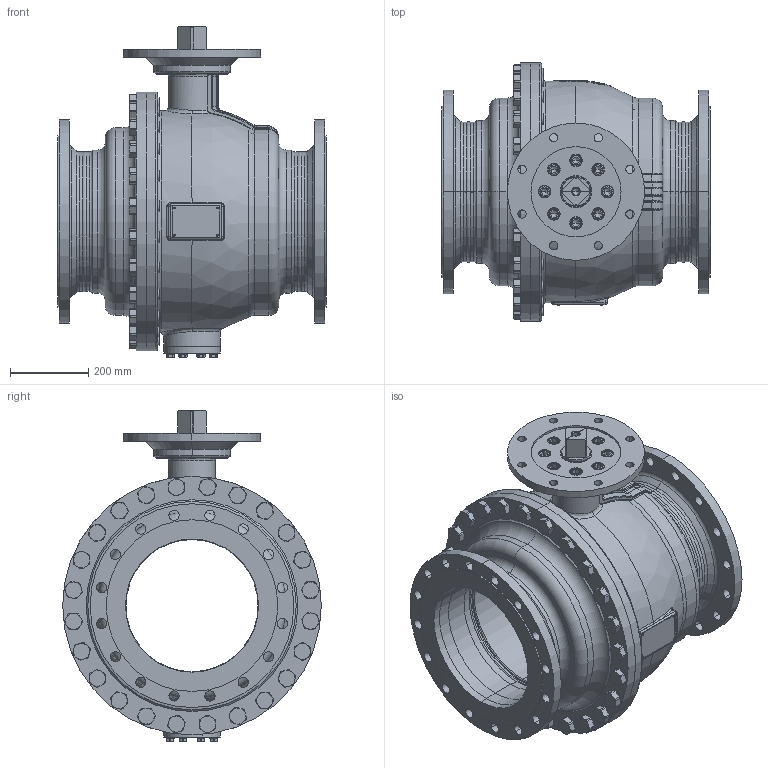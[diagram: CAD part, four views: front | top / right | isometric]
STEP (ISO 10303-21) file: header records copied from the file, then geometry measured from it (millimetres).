
FILE_DESCRIPTION((''),'2;1');
FILE_NAME('KHI-F_350_PN016-F30-4_SW0001','2026-02-05T15:46:39',('fischerkl'),('KLINGER'),'CREO PARAMETRIC BY PTC INC, 2023014','CREO PARAMETRIC BY PTC INC, 2023014','');
FILE_SCHEMA(('CONFIG_CONTROL_DESIGN'));
Products named in the file (1): KHI-F_350_PN016-F30-4_SW0001
Bounding box: 686 x 660 x 842.8 mm (x, y, z)
Volume: 43167581.3 mm3; surface area: 5905536.7 mm2
Topology: 1 solids, 4 shells, 3389 faces, 8552 edges, 5337 vertices
Faces by surface type: plane 1732, cylinder 789, cone 448, torus 291, bspline 99, sphere 30
Entity records: 143019 total; most frequent: CARTESIAN_POINT 62241, ORIENTED_EDGE 17052, DIRECTION 16733, EDGE_CURVE 8526, AXIS2_PLACEMENT_3D 6378, VERTEX_POINT 5337, VECTOR 3977, LINE 3977
